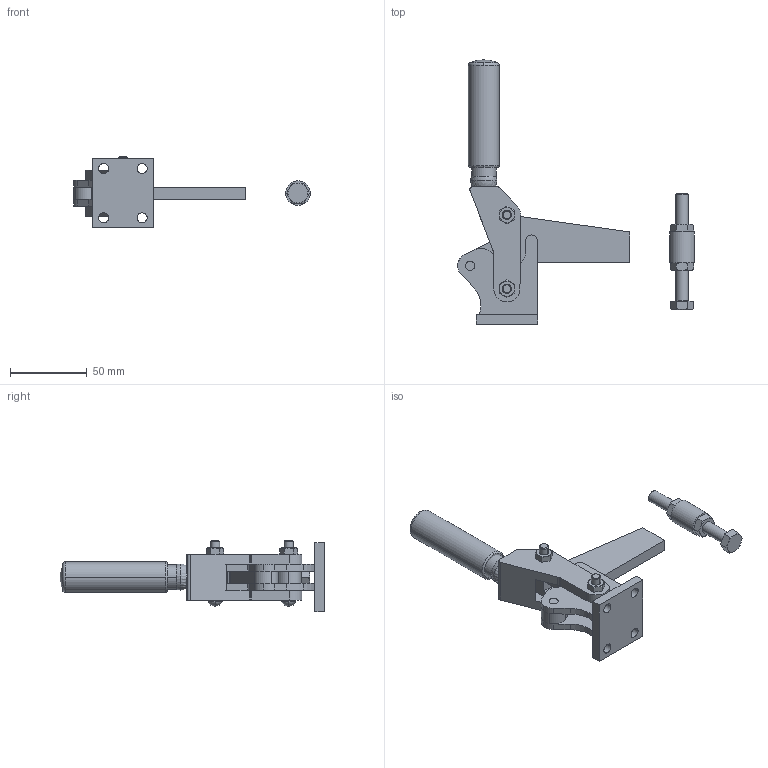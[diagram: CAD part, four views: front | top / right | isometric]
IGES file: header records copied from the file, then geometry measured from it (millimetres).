
Start section:  Level              Description ========  ================================        1  SANDFIELD
Global section: file name: D:/WORK/SANDFIELD/sandfield_3d/Vertical_Action/HEAVY_DUTY/M18/M18TB.IGS; native system: AutoCAD-13_c4a_Mh (HwLock) (Microsoft Windows NT Version 4.0 (x86)); preprocessor: AutoCAD IGES Translator R13.1c2 (Jan 23 1997) from Autodesk, Inc.; author: ProCAD; organization: Sandfield Eng Co.; date: 990520.143151; units: millimetre
Bounding box: 153.93 x 172 x 46.5 mm (x, y, z)
Volume: 125699.3 mm3; surface area: 51962.4 mm2
Topology: 17 solids, 17 shells, 297 faces, 724 edges, 461 vertices
Faces by surface type: plane 103, cylinder 102, bspline 66, cone 14, sphere 8, torus 4
